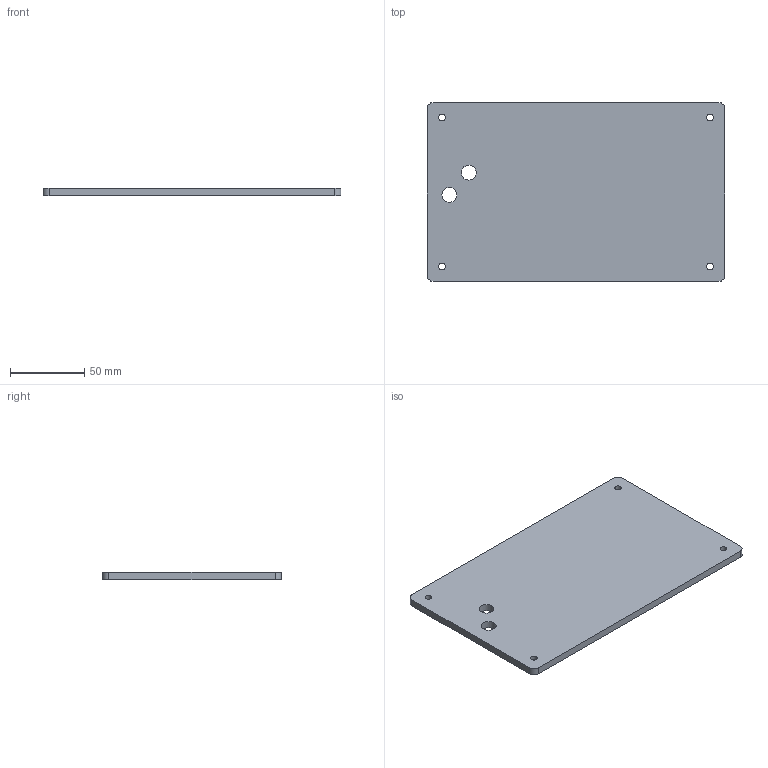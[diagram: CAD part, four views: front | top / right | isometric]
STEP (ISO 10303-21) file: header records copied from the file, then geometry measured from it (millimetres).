
FILE_DESCRIPTION(('FreeCAD Model'),'2;1');
FILE_NAME('Open CASCADE Shape Model','2026-11-06T11:24:15',('FreeCAD'),( 'FreeCAD'),'Open CASCADE STEP processor 7.8','FreeCAD','Unknown');
FILE_SCHEMA(('AUTOMOTIVE_DESIGN { 1 0 10303 214 1 1 1 1 }'));
Length unit declared in the file: millimetre
Products named in the file (1): Open CASCADE STEP translator 7.8 2
Bounding box: 200 x 120 x 5 mm (x, y, z)
Volume: 118827.8 mm3; surface area: 51293.7 mm2
Topology: 1 solids, 1 shells, 16 faces, 42 edges, 28 vertices
Faces by surface type: cylinder 10, plane 6
Full cylindrical faces by diameter (mm): 4.5 x4, 10 x2
Entity records: 540 total; most frequent: DIRECTION 96, CARTESIAN_POINT 87, ORIENTED_EDGE 84, EDGE_CURVE 42, AXIS2_PLACEMENT_3D 37, FACE_BOUND 28, EDGE_LOOP 28, VERTEX_POINT 28
